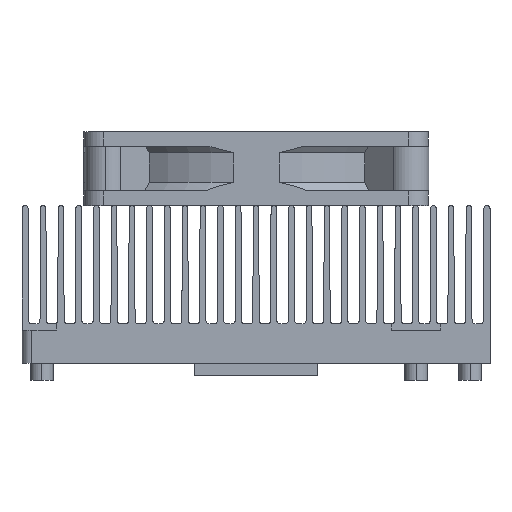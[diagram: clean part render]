
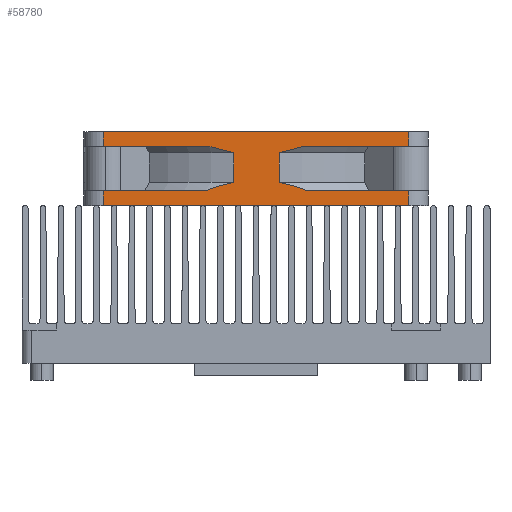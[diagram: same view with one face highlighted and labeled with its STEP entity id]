
A CAD part, front view. The second image highlights one B-rep face of the part: STEP entity #58780.
In plain terms, the highlighted planar face has unit normal (0, -1, 0).
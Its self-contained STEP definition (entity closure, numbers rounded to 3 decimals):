
#51904=DIRECTION('',(1.,0.,0.));
#51905=VECTOR('',#51904,62.);
#51906=CARTESIAN_POINT('',(-31.077,-35.,0.));
#51907=LINE('',#51906,#51905);
#52634=DIRECTION('',(0.,0.,-1.));
#52635=VECTOR('',#52634,3.);
#52636=CARTESIAN_POINT('',(30.923,-35.,3.));
#52637=LINE('',#52636,#52635);
#52642=DIRECTION('',(1.,0.,0.));
#52643=VECTOR('',#52642,20.941);
#52644=CARTESIAN_POINT('',(-30.569,-35.,12.));
#52645=LINE('',#52644,#52643);
#52646=DIRECTION('',(1.,0.,0.));
#52647=VECTOR('',#52646,0.508);
#52648=CARTESIAN_POINT('',(-31.077,-35.,12.));
#52649=LINE('',#52648,#52647);
#52650=DIRECTION('',(-1.,0.,0.));
#52651=VECTOR('',#52650,62.);
#52652=CARTESIAN_POINT('',(30.923,-35.,15.));
#52653=LINE('',#52652,#52651);
#52654=DIRECTION('',(1.,0.,0.));
#52655=VECTOR('',#52654,21.295);
#52656=CARTESIAN_POINT('',(9.628,-35.,
12.));
#52657=LINE('',#52656,#52655);
#52658=DIRECTION('',(-1.,0.,0.));
#52659=VECTOR('',#52658,20.567);
#52660=CARTESIAN_POINT('',(30.923,-35.,3.));
#52661=LINE('',#52660,#52659);
#52662=DIRECTION('',(-1.,0.,0.));
#52663=VECTOR('',#52662,0.508);
#52664=CARTESIAN_POINT('',(-30.569,-35.,3.));
#52665=LINE('',#52664,#52663);
#52666=DIRECTION('',(-1.,0.,0.));
#52667=VECTOR('',#52666,20.213);
#52668=CARTESIAN_POINT('',(-10.356,-35.,
3.));
#52669=LINE('',#52668,#52667);
#52670=CARTESIAN_POINT('',(-10.356,-35.,
3.));
#52671=CARTESIAN_POINT('',(-9.694,-35.,
3.266));
#52672=CARTESIAN_POINT('',(-8.384,-35.,
3.746));
#52673=CARTESIAN_POINT('',(-6.454,-35.,
4.312));
#52674=CARTESIAN_POINT('',(-5.207,-35.,
4.587));
#52675=CARTESIAN_POINT('',(-4.592,-35.,
4.7));
#52796=DIRECTION('',(0.,0.,1.));
#52797=VECTOR('',#52796,3.);
#52798=CARTESIAN_POINT('',(-31.077,-35.,0.));
#52799=LINE('',#52798,#52797);
#53282=DIRECTION('',(0.,0.,1.));
#53283=VECTOR('',#53282,3.);
#53284=CARTESIAN_POINT('',(-31.077,-35.,12.));
#53285=LINE('',#53284,#53283);
#53298=DIRECTION('',(0.,0.,-1.));
#53299=VECTOR('',#53298,3.);
#53300=CARTESIAN_POINT('',(30.923,-35.,15.));
#53301=LINE('',#53300,#53299);
#53382=CARTESIAN_POINT('',(9.628,-35.,
12.));
#53383=CARTESIAN_POINT('',(9.055,-35.,
11.803));
#53384=CARTESIAN_POINT('',(7.918,-35.,
11.443));
#53385=CARTESIAN_POINT('',(6.233,-35.,
11.009));
#53386=CARTESIAN_POINT('',(5.135,-35.,
10.792));
#53387=CARTESIAN_POINT('',(4.592,-35.,
10.7));
#53401=DIRECTION('',(0.,0.,-1.));
#53402=VECTOR('',#53401,6.);
#53403=CARTESIAN_POINT('',(4.592,-35.,
10.7));
#53404=LINE('',#53403,#53402);
#53409=CARTESIAN_POINT('',(4.592,-35.,
4.7));
#53410=CARTESIAN_POINT('',(5.215,-35.,
4.585));
#53411=CARTESIAN_POINT('',(6.473,-35.,
4.307));
#53412=CARTESIAN_POINT('',(8.374,-35.,
3.749));
#53413=CARTESIAN_POINT('',(9.69,-35.,
3.268));
#53414=CARTESIAN_POINT('',(10.356,-35.,
3.));
#54529=CARTESIAN_POINT('',(-4.592,-35.,
10.7));
#54530=CARTESIAN_POINT('',(-5.141,-35.,
10.793));
#54531=CARTESIAN_POINT('',(-6.245,-35.,
11.012));
#54532=CARTESIAN_POINT('',(-7.911,-35.,
11.441));
#54533=CARTESIAN_POINT('',(-9.052,-35.,
11.801));
#54534=CARTESIAN_POINT('',(-9.628,-35.,12.));
#54548=DIRECTION('',(0.,0.,1.));
#54549=VECTOR('',#54548,6.);
#54550=CARTESIAN_POINT('',(-4.592,-35.,
4.7));
#54551=LINE('',#54550,#54549);
#56547=CARTESIAN_POINT('',(-30.569,-35.,3.));
#56549=VERTEX_POINT('',#56547);
#56552=CARTESIAN_POINT('',(-30.569,-35.,12.));
#56553=VERTEX_POINT('',#56552);
#57191=CARTESIAN_POINT('',(-31.077,-35.,12.));
#57192=VERTEX_POINT('',#57191);
#57214=CARTESIAN_POINT('',(-31.077,-35.,3.));
#57215=VERTEX_POINT('',#57214);
#57216=VERTEX_POINT('',#53409);
#57217=VERTEX_POINT('',#53414);
#57218=CARTESIAN_POINT('',(4.592,-35.,
10.7));
#57219=VERTEX_POINT('',#57218);
#57220=VERTEX_POINT('',#53382);
#57221=CARTESIAN_POINT('',(30.923,-35.,12.));
#57222=VERTEX_POINT('',#57221);
#57225=CARTESIAN_POINT('',(-31.077,-35.,15.));
#57226=VERTEX_POINT('',#57225);
#57227=CARTESIAN_POINT('',(-9.628,-35.,12.));
#57228=VERTEX_POINT('',#57227);
#57229=VERTEX_POINT('',#54529);
#57230=CARTESIAN_POINT('',(-4.592,-35.,
4.7));
#57231=VERTEX_POINT('',#57230);
#57232=VERTEX_POINT('',#52670);
#57233=CARTESIAN_POINT('',(30.923,-35.,3.));
#57234=VERTEX_POINT('',#57233);
#57257=CARTESIAN_POINT('',(30.923,-35.,15.));
#57258=VERTEX_POINT('',#57257);
#57420=CARTESIAN_POINT('',(-31.077,-35.,0.));
#57421=VERTEX_POINT('',#57420);
#57422=CARTESIAN_POINT('',(30.923,-35.,0.));
#57423=VERTEX_POINT('',#57422);
#58739=CARTESIAN_POINT('',(-0.077,-35.,7.5));
#58740=DIRECTION('',(0.,1.,0.));
#58741=DIRECTION('',(1.,0.,0.));
#58742=AXIS2_PLACEMENT_3D('',#58739,#58740,#58741);
#58743=PLANE('',#58742);
#58745=ORIENTED_EDGE('',*,*,#58744,.T.);
#58747=ORIENTED_EDGE('',*,*,#58746,.T.);
#58749=ORIENTED_EDGE('',*,*,#58748,.T.);
#58751=ORIENTED_EDGE('',*,*,#58750,.F.);
#58753=ORIENTED_EDGE('',*,*,#58752,.F.);
#58755=ORIENTED_EDGE('',*,*,#58754,.T.);
#58757=ORIENTED_EDGE('',*,*,#58756,.F.);
#58759=ORIENTED_EDGE('',*,*,#58758,.T.);
#58761=ORIENTED_EDGE('',*,*,#58760,.F.);
#58763=ORIENTED_EDGE('',*,*,#58762,.T.);
#58765=ORIENTED_EDGE('',*,*,#58764,.T.);
#58767=ORIENTED_EDGE('',*,*,#58766,.T.);
#58769=ORIENTED_EDGE('',*,*,#58768,.F.);
#58770=ORIENTED_EDGE('',*,*,#58728,.T.);
#58771=ORIENTED_EDGE('',*,*,#58101,.F.);
#58773=ORIENTED_EDGE('',*,*,#58772,.T.);
#58775=ORIENTED_EDGE('',*,*,#58774,.F.);
#58777=ORIENTED_EDGE('',*,*,#58776,.F.);
#58778=EDGE_LOOP('',(#58745,#58747,#58749,#58751,#58753,#58755,#58757,#58759,
#58761,#58763,#58765,#58767,#58769,#58770,#58771,#58773,#58775,#58777));
#58779=FACE_OUTER_BOUND('',#58778,.F.);
#58780=ADVANCED_FACE('',(#58779),#58743,.F.);
#52676=B_SPLINE_CURVE_WITH_KNOTS('',3,(#52670,#52671,#52672,#52673,#52674,
#52675),.UNSPECIFIED.,.F.,.F.,(4,1,1,4),(0.,0.333,
0.667,1.),.UNSPECIFIED.);
#53388=B_SPLINE_CURVE_WITH_KNOTS('',3,(#53382,#53383,#53384,#53385,#53386,
#53387),.UNSPECIFIED.,.F.,.F.,(4,1,1,4),(0.,0.333,
0.667,1.),.UNSPECIFIED.);
#53415=B_SPLINE_CURVE_WITH_KNOTS('',3,(#53409,#53410,#53411,#53412,#53413,
#53414),.UNSPECIFIED.,.F.,.F.,(4,1,1,4),(0.,0.333,
0.667,1.),.UNSPECIFIED.);
#54535=B_SPLINE_CURVE_WITH_KNOTS('',3,(#54529,#54530,#54531,#54532,#54533,
#54534),.UNSPECIFIED.,.F.,.F.,(4,1,1,4),(0.,0.333,
0.667,1.),.UNSPECIFIED.);
#58101=EDGE_CURVE('',#57421,#57423,#51907,.T.);
#58728=EDGE_CURVE('',#57234,#57423,#52637,.T.);
#58744=EDGE_CURVE('',#57232,#57231,#52676,.T.);
#58746=EDGE_CURVE('',#57231,#57229,#54551,.T.);
#58748=EDGE_CURVE('',#57229,#57228,#54535,.T.);
#58750=EDGE_CURVE('',#56553,#57228,#52645,.T.);
#58752=EDGE_CURVE('',#57192,#56553,#52649,.T.);
#58754=EDGE_CURVE('',#57192,#57226,#53285,.T.);
#58756=EDGE_CURVE('',#57258,#57226,#52653,.T.);
#58758=EDGE_CURVE('',#57258,#57222,#53301,.T.);
#58760=EDGE_CURVE('',#57220,#57222,#52657,.T.);
#58762=EDGE_CURVE('',#57220,#57219,#53388,.T.);
#58764=EDGE_CURVE('',#57219,#57216,#53404,.T.);
#58766=EDGE_CURVE('',#57216,#57217,#53415,.T.);
#58768=EDGE_CURVE('',#57234,#57217,#52661,.T.);
#58772=EDGE_CURVE('',#57421,#57215,#52799,.T.);
#58774=EDGE_CURVE('',#56549,#57215,#52665,.T.);
#58776=EDGE_CURVE('',#57232,#56549,#52669,.T.);
